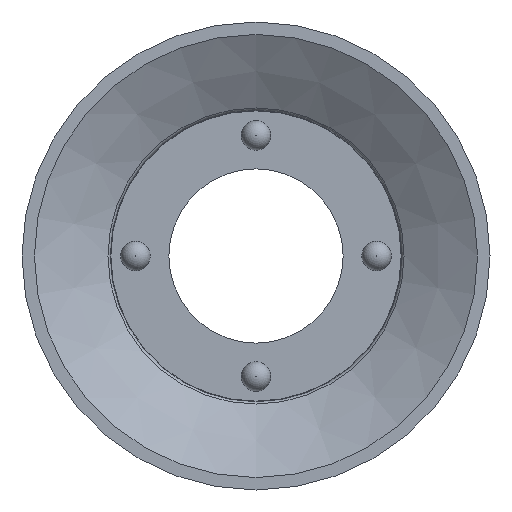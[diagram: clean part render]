
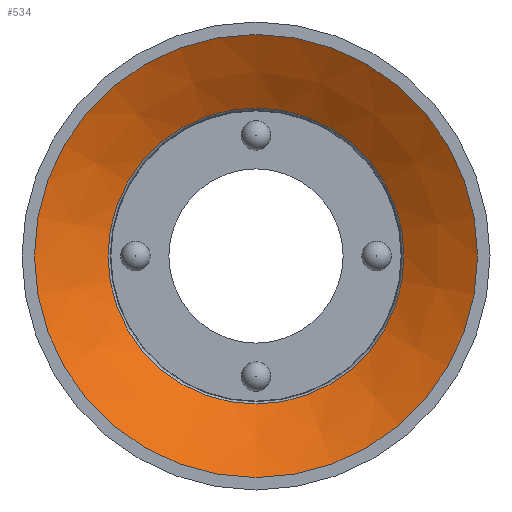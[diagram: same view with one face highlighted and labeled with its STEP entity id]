
A CAD part, front view. The second image highlights one B-rep face of the part: STEP entity #534.
In plain terms, the highlighted conical face has half-angle 58.792 degrees and reference radius 23.686 mm.
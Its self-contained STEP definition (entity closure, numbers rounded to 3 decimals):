
#12 = CARTESIAN_POINT ( 'NONE',  ( 0., 4.761, 15.828 ) ) ;
#61 = FACE_BOUND ( 'NONE', #1062, .T. ) ;
#116 = CARTESIAN_POINT ( 'NONE',  ( 0., 0., 23.686 ) ) ;
#131 = DIRECTION ( 'NONE',  ( 0., 0., -1. ) ) ;
#200 = CARTESIAN_POINT ( 'NONE',  ( 0., 4.761, 0. ) ) ;
#386 = DIRECTION ( 'NONE',  ( 0., -1., 0. ) ) ;
#397 = CARTESIAN_POINT ( 'NONE',  ( 0., 0., 0. ) ) ;
#398 = CIRCLE ( 'NONE', #590, 15.828 ) ;
#461 = CONICAL_SURFACE ( 'NONE', #1066, 23.686, 1.026 ) ;
#491 = DIRECTION ( 'NONE',  ( 0., 1., 0. ) ) ;
#534 = ADVANCED_FACE ( 'NONE', ( #61, #803 ), #461, .F. ) ;
#543 = DIRECTION ( 'NONE',  ( 0., 1., 0. ) ) ;
#554 = EDGE_CURVE ( 'NONE', #661, #661, #639, .T. ) ;
#590 = AXIS2_PLACEMENT_3D ( 'NONE', #200, #543, #776 ) ;
#599 = AXIS2_PLACEMENT_3D ( 'NONE', #397, #491, #731 ) ;
#639 = CIRCLE ( 'NONE', #599, 23.686 ) ;
#650 = ORIENTED_EDGE ( 'NONE', *, *, #554, .F. ) ;
#661 = VERTEX_POINT ( 'NONE', #116 ) ;
#731 = DIRECTION ( 'NONE',  ( 0., 0., 1. ) ) ;
#769 = VERTEX_POINT ( 'NONE', #12 ) ;
#772 = EDGE_LOOP ( 'NONE', ( #650 ) ) ;
#776 = DIRECTION ( 'NONE',  ( 0., 0., 1. ) ) ;
#803 = FACE_OUTER_BOUND ( 'NONE', #772, .T. ) ;
#842 = EDGE_CURVE ( 'NONE', #769, #769, #398, .T. ) ;
#900 = CARTESIAN_POINT ( 'NONE',  ( 0., 0., 0. ) ) ;
#1033 = ORIENTED_EDGE ( 'NONE', *, *, #842, .T. ) ;
#1062 = EDGE_LOOP ( 'NONE', ( #1033 ) ) ;
#1066 = AXIS2_PLACEMENT_3D ( 'NONE', #900, #386, #131 ) ;
